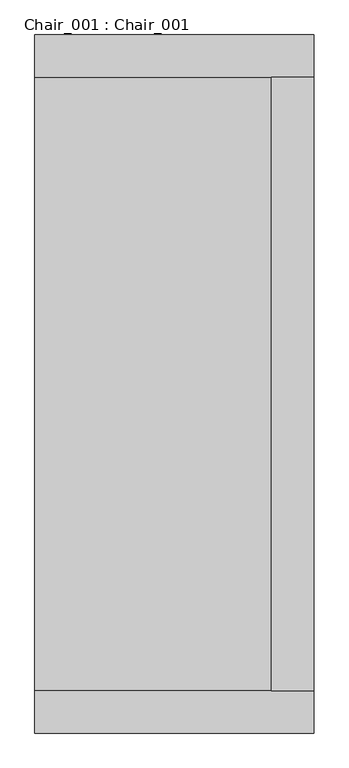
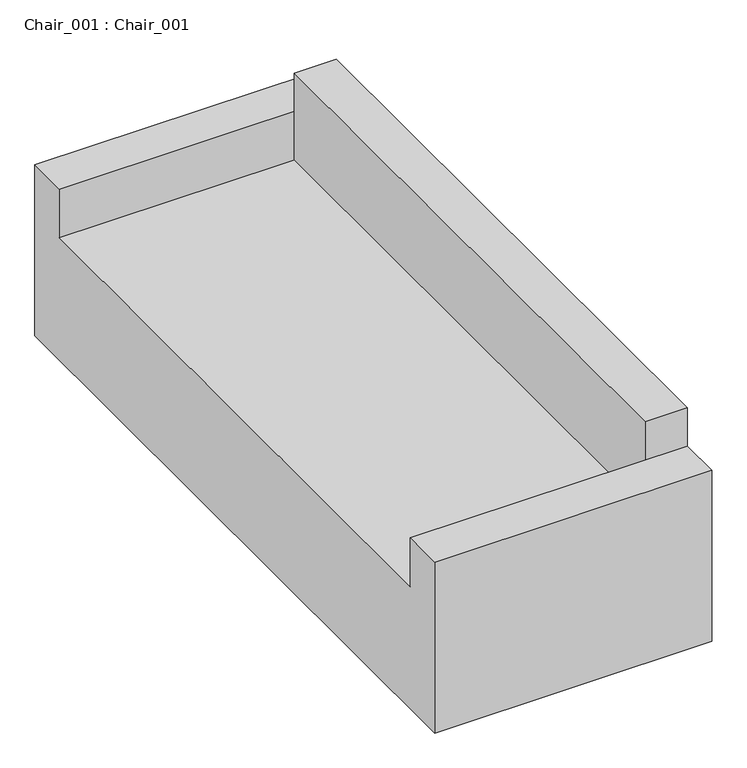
"""IFC4 building model written with IfcOpenShell, lengths in millimetres: furniture geometry, Chair_001 : Chair_001."""

from ifc_helpers import new_model, si_unit, frame, origin, place, context, project, spatial, polyline, outline, extrude, source, transform, mapped, element, save


def chair_001_chair_001_a96d8df5(model_context):
    return source(origin(), model_context, "Body", "SweptSolid", [
        extrude(outline(polyline([(1468.5133252, 0.0), (-831.4866748, 0.0), (-831.4866748, 600.6481907), (-691.4866748, 600.6481907), (-691.4866748, 429.3410227), (1328.5133252, 429.3410227), (1328.5133252, 600.6481907), (1468.5133252, 600.6481907), (1468.5133252, 0.0)])), frame((-481.2846377, 0.0, 0.0), z_axis=(1.0, 0.0, 0.0), x_axis=(0.0, 1.0, 0.0)), (0.0, 0.0, 1.0), 920.0),
        extrude(outline(polyline([(298.7153623, 1328.5133252), (438.7153623, 1328.5133252), (438.7153623, -691.4866748), (298.7153623, -691.4866748), (298.7153623, 1328.5133252)])), frame((0.0, 0.0, 429.3410227), z_axis=(0.0, 0.0, 1.0), x_axis=(1.0, 0.0, 0.0)), (0.0, 0.0, 1.0), 305.3783642),
    ])


if __name__ == "__main__":
    model = new_model("IFC4")
    model_context = context("Model", 3, world=origin())
    ifc_project = project(units=[si_unit("LENGTHUNIT", "METRE", prefix="MILLI")], contexts=[model_context])
    site = spatial("IfcSite", under=ifc_project)
    building = spatial("IfcBuilding", under=site)
    placement = place(None, origin())
    chair_001_chair_001_shape = chair_001_chair_001_a96d8df5(model_context)
    element("IfcFurniture", 1, ObjectType="Chair_001 : Chair_001", at=placement, inside=building, context=model_context, shape_type="MappedRepresentation", body=[
        mapped(chair_001_chair_001_shape, transform((0.0, 0.0, 0.0), x_axis=(1.0, 0.0, 0.0), y_axis=(0.0, 1.0, 0.0), z_axis=(0.0, 0.0, 1.0))),
    ])
    save(model, "model.ifc")
